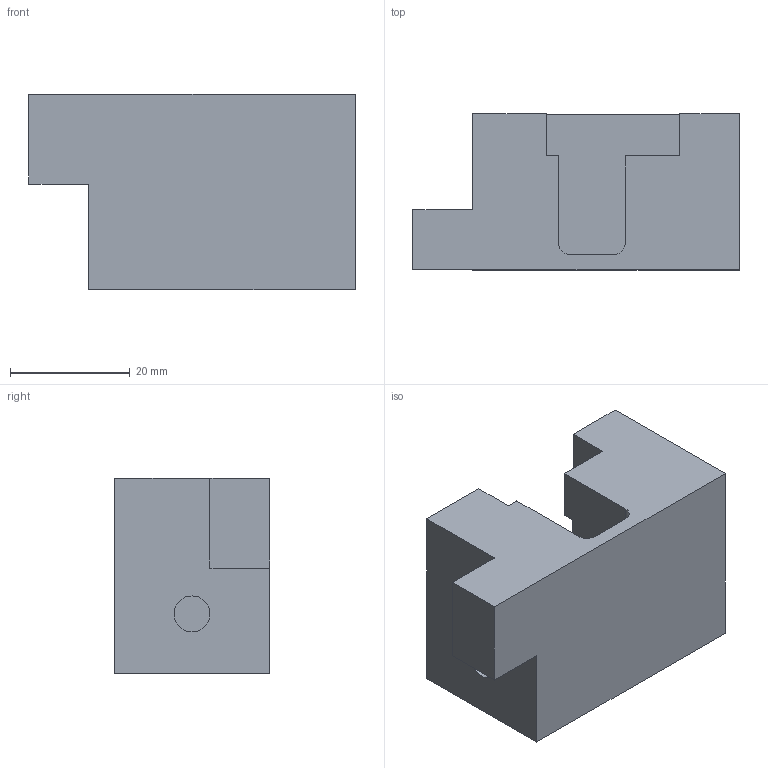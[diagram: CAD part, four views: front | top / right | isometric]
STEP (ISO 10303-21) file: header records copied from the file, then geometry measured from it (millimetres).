
FILE_DESCRIPTION(('CATIA V5 STEP Exchange'),'2;1');
FILE_NAME('G:\够快云库\系统集成开发部\1.部门成员\孙国\工装\手动插管\STP\V3\GZ-SDCG13_V3 1.0气阀固定座.stp','2021-03-01T02:23:36+00:00',('none'),('none'),'CATIA Version 5 Release 20 GA (IN-10)','CATIA V5 STEP AP214','none');
FILE_SCHEMA(('AUTOMOTIVE_DESIGN { 1 0 10303 214 1 1 1 1 }'));
Length unit declared in the file: millimetre
Products named in the file (1): A628_JG06
Bounding box: 54.5 x 26 x 32.65 mm (x, y, z)
Volume: 29911 mm3; surface area: 8841.2 mm2
Topology: 1 solids, 1 shells, 28 faces, 76 edges, 51 vertices
Faces by surface type: plane 22, cylinder 6
Entity records: 868 total; most frequent: CARTESIAN_POINT 155, ORIENTED_EDGE 152, DIRECTION 121, EDGE_CURVE 76, VECTOR 61, LINE 61, VERTEX_POINT 51, AXIS2_PLACEMENT_3D 37
